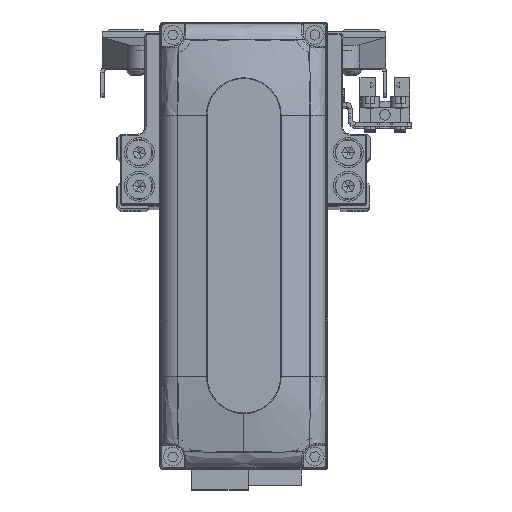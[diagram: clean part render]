
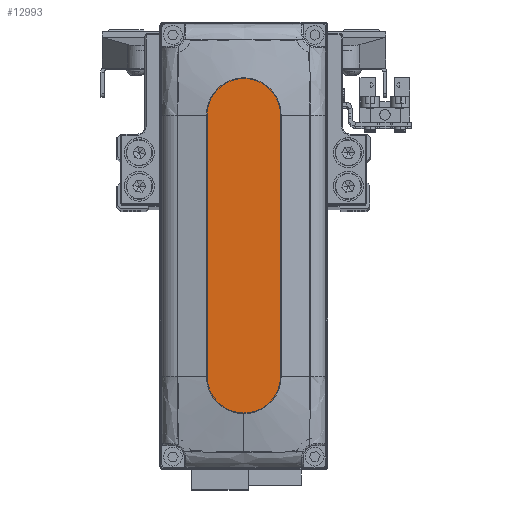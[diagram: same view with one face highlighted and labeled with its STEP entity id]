
A CAD part, top view. The second image highlights one B-rep face of the part: STEP entity #12993.
In plain terms, the highlighted planar face has unit normal (0, 0, 1).
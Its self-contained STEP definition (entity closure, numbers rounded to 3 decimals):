
#201 = VERTEX_POINT ( 'NONE', #37059 ) ;
#786 = FACE_OUTER_BOUND ( 'NONE', #11244, .T. ) ;
#1484 = AXIS2_PLACEMENT_3D ( 'NONE', #37162, #6787, #20312 ) ;
#4101 = AXIS2_PLACEMENT_3D ( 'NONE', #27811, #41350, #10972 ) ;
#6462 = AXIS2_PLACEMENT_3D ( 'NONE', #24402, #37934, #7562 ) ;
#6787 = DIRECTION ( 'NONE',  ( 0., 0., 1. ) ) ;
#7165 = EDGE_CURVE ( 'NONE', #15026, #9732, #26669, .T. ) ;
#7562 = DIRECTION ( 'NONE',  ( 1., 0., 0. ) ) ;
#8363 = CARTESIAN_POINT ( 'NONE',  ( 45., 0., 28. ) ) ;
#9732 = VERTEX_POINT ( 'NONE', #18668 ) ;
#9837 = DIRECTION ( 'NONE',  ( -1., 0., 0. ) ) ;
#10221 = CARTESIAN_POINT ( 'NONE',  ( 35., -10., 28. ) ) ;
#10972 = DIRECTION ( 'NONE',  ( 1., 0., 0. ) ) ;
#10996 = VECTOR ( 'NONE', #9837, 1000. ) ;
#11244 = EDGE_LOOP ( 'NONE', ( #15556, #19923, #27634, #33943, #16794 ) ) ;
#11691 = CARTESIAN_POINT ( 'NONE',  ( 35., 0., 28. ) ) ;
#12387 = CIRCLE ( 'NONE', #37164, 10. ) ;
#12954 = LINE ( 'NONE', #26459, #32184 ) ;
#12993 = ADVANCED_FACE ( 'NONE', ( #786 ), #14310, .T. ) ;
#14310 = PLANE ( 'NONE',  #4101 ) ;
#15026 = VERTEX_POINT ( 'NONE', #33500 ) ;
#15556 = ORIENTED_EDGE ( 'NONE', *, *, #7165, .T. ) ;
#16379 = VERTEX_POINT ( 'NONE', #10221 ) ;
#16464 = EDGE_CURVE ( 'NONE', #9732, #201, #25568, .T. ) ;
#16794 = ORIENTED_EDGE ( 'NONE', *, *, #33748, .T. ) ;
#18668 = CARTESIAN_POINT ( 'NONE',  ( -35., 10., 28. ) ) ;
#19923 = ORIENTED_EDGE ( 'NONE', *, *, #16464, .T. ) ;
#20312 = DIRECTION ( 'NONE',  ( 1., 0., 0. ) ) ;
#20607 = CIRCLE ( 'NONE', #1484, 10. ) ;
#21719 = EDGE_CURVE ( 'NONE', #16379, #32332, #12387, .T. ) ;
#23539 = EDGE_CURVE ( 'NONE', #201, #16379, #12954, .T. ) ;
#24402 = CARTESIAN_POINT ( 'NONE',  ( -35., 0., 28. ) ) ;
#25204 = DIRECTION ( 'NONE',  ( 0., 0., 1. ) ) ;
#25568 = CIRCLE ( 'NONE', #6462, 10. ) ;
#26459 = CARTESIAN_POINT ( 'NONE',  ( -35., -10., 28. ) ) ;
#26669 = LINE ( 'NONE', #40205, #10996 ) ;
#27634 = ORIENTED_EDGE ( 'NONE', *, *, #23539, .T. ) ;
#27811 = CARTESIAN_POINT ( 'NONE',  ( 0., 0., 28. ) ) ;
#32184 = VECTOR ( 'NONE', #39999, 1000. ) ;
#32332 = VERTEX_POINT ( 'NONE', #8363 ) ;
#33500 = CARTESIAN_POINT ( 'NONE',  ( 35., 10., 28. ) ) ;
#33748 = EDGE_CURVE ( 'NONE', #32332, #15026, #20607, .T. ) ;
#33943 = ORIENTED_EDGE ( 'NONE', *, *, #21719, .T. ) ;
#37059 = CARTESIAN_POINT ( 'NONE',  ( -35., -10., 28. ) ) ;
#37162 = CARTESIAN_POINT ( 'NONE',  ( 35., 0., 28. ) ) ;
#37164 = AXIS2_PLACEMENT_3D ( 'NONE', #11691, #25204, #38741 ) ;
#37934 = DIRECTION ( 'NONE',  ( 0., 0., 1. ) ) ;
#38741 = DIRECTION ( 'NONE',  ( 1., 0., 0. ) ) ;
#39999 = DIRECTION ( 'NONE',  ( 1., 0., 0. ) ) ;
#40205 = CARTESIAN_POINT ( 'NONE',  ( -35., 10., 28. ) ) ;
#41350 = DIRECTION ( 'NONE',  ( 0., 0., 1. ) ) ;
